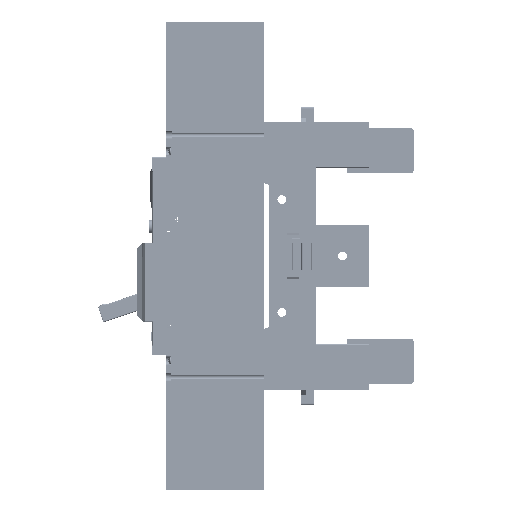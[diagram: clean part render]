
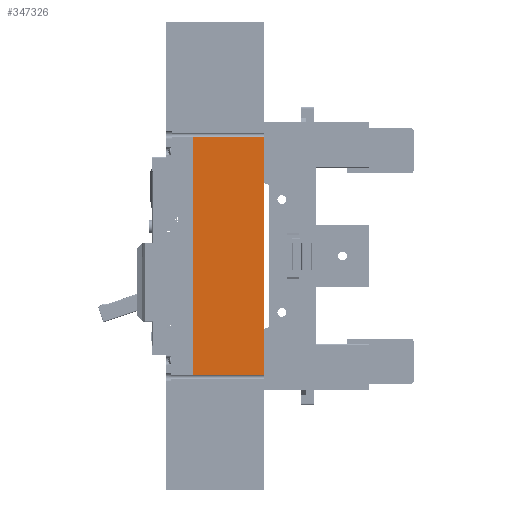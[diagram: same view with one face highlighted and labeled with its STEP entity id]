
A CAD part, left-side view. The second image highlights one B-rep face of the part: STEP entity #347326.
In plain terms, the highlighted planar face has unit normal (-1, 0, 0).
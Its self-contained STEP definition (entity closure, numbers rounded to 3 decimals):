
#129 = EDGE_CURVE ( 'NONE', #215064, #244282, #611718, .T. ) ;
#6756 = CARTESIAN_POINT ( 'NONE',  ( -2651.941, 708.809, 115.5 ) ) ;
#36623 = ORIENTED_EDGE ( 'NONE', *, *, #717809, .F. ) ;
#70273 = CARTESIAN_POINT ( 'NONE',  ( -2651.941, 638.809, 115.5 ) ) ;
#120448 = CARTESIAN_POINT ( 'NONE',  ( -2651.941, 708.809, -38.5 ) ) ;
#128658 = CARTESIAN_POINT ( 'NONE',  ( -2651.941, 638.809, 115.5 ) ) ;
#165164 = PLANE ( 'NONE',  #414538 ) ;
#185368 = CARTESIAN_POINT ( 'NONE',  ( -2651.941, 685.476, -115.5 ) ) ;
#196206 = ORIENTED_EDGE ( 'NONE', *, *, #585929, .F. ) ;
#215064 = VERTEX_POINT ( 'NONE', #570052 ) ;
#244282 = VERTEX_POINT ( 'NONE', #612815 ) ;
#251877 = CARTESIAN_POINT ( 'NONE',  ( -2651.941, 708.809, -115.5 ) ) ;
#256179 = VERTEX_POINT ( 'NONE', #860276 ) ;
#265984 = CARTESIAN_POINT ( 'NONE',  ( -2651.941, 708.809, 115.5 ) ) ;
#340851 = CARTESIAN_POINT ( 'NONE',  ( -2651.941, 638.809, -38.5 ) ) ;
#347326 = ADVANCED_FACE ( 'NONE', ( #823139 ), #165164, .F. ) ;
#403589 = CARTESIAN_POINT ( 'NONE',  ( -2651.941, 638.809, -115.5 ) ) ;
#414538 = AXIS2_PLACEMENT_3D ( 'NONE', #652284, #810653, #892847 ) ;
#426389 = CARTESIAN_POINT ( 'NONE',  ( -2651.941, 638.809, 115.5 ) ) ;
#467317 = B_SPLINE_CURVE_WITH_KNOTS ( 'NONE', 3,
 ( #128658, #774136, #340851, #634916 ),
 .UNSPECIFIED., .F., .F.,
 ( 4, 4 ),
 ( 0., 1. ),
 .UNSPECIFIED. ) ;
#467320 = EDGE_LOOP ( 'NONE', ( #196206, #36623, #723795, #766559 ) ) ;
#470114 = CARTESIAN_POINT ( 'NONE',  ( -2651.941, 662.143, -115.5 ) ) ;
#512917 = CARTESIAN_POINT ( 'NONE',  ( -2651.941, 662.143, 115.5 ) ) ;
#516033 = CARTESIAN_POINT ( 'NONE',  ( -2651.941, 685.476, 115.5 ) ) ;
#548748 = EDGE_CURVE ( 'NONE', #256179, #244282, #562140, .T. ) ;
#562140 = B_SPLINE_CURVE_WITH_KNOTS ( 'NONE', 3,
 ( #265984, #848086, #120448, #784573 ),
 .UNSPECIFIED., .F., .F.,
 ( 4, 4 ),
 ( 0., 1. ),
 .UNSPECIFIED. ) ;
#570052 = CARTESIAN_POINT ( 'NONE',  ( -2651.941, 638.809, -115.5 ) ) ;
#585929 = EDGE_CURVE ( 'NONE', #694951, #215064, #467317, .T. ) ;
#611718 = B_SPLINE_CURVE_WITH_KNOTS ( 'NONE', 3,
 ( #403589, #470114, #185368, #251877 ),
 .UNSPECIFIED., .F., .F.,
 ( 4, 4 ),
 ( 0., 1. ),
 .UNSPECIFIED. ) ;
#612815 = CARTESIAN_POINT ( 'NONE',  ( -2651.941, 708.809, -115.5 ) ) ;
#634916 = CARTESIAN_POINT ( 'NONE',  ( -2651.941, 638.809, -115.5 ) ) ;
#652284 = CARTESIAN_POINT ( 'NONE',  ( -2651.941, 708.809, 125. ) ) ;
#694951 = VERTEX_POINT ( 'NONE', #426389 ) ;
#717809 = EDGE_CURVE ( 'NONE', #256179, #694951, #752303, .T. ) ;
#723795 = ORIENTED_EDGE ( 'NONE', *, *, #548748, .T. ) ;
#752303 = B_SPLINE_CURVE_WITH_KNOTS ( 'NONE', 3,
 ( #6756, #516033, #512917, #70273 ),
 .UNSPECIFIED., .F., .F.,
 ( 4, 4 ),
 ( 0., 1. ),
 .UNSPECIFIED. ) ;
#766559 = ORIENTED_EDGE ( 'NONE', *, *, #129, .F. ) ;
#774136 = CARTESIAN_POINT ( 'NONE',  ( -2651.941, 638.809, 38.5 ) ) ;
#784573 = CARTESIAN_POINT ( 'NONE',  ( -2651.941, 708.809, -115.5 ) ) ;
#810653 = DIRECTION ( 'NONE',  ( 1., 0., 0. ) ) ;
#823139 = FACE_OUTER_BOUND ( 'NONE', #467320, .T. ) ;
#848086 = CARTESIAN_POINT ( 'NONE',  ( -2651.941, 708.809, 38.5 ) ) ;
#860276 = CARTESIAN_POINT ( 'NONE',  ( -2651.941, 708.809, 115.5 ) ) ;
#892847 = DIRECTION ( 'NONE',  ( 0., 1., 0. ) ) ;
